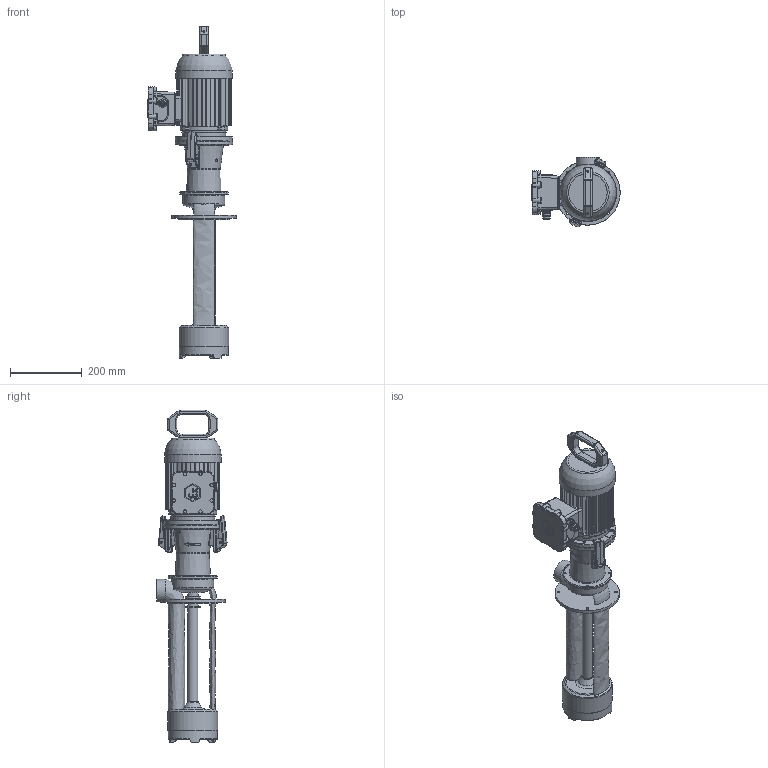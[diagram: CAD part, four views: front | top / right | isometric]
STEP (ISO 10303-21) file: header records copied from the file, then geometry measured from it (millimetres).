
FILE_DESCRIPTION(/* description */ ('Unknown'),/* implementation_level */ '2;1');
FILE_NAME(/* name */ 'EP EX 152-390',/* time_stamp */ '2025-06-03T08:35:46+03:00',/* author */ ('Unknown'),/* organization */ ('Unknown'),/* preprocessor_version */ 'ST-DEVELOPER v16.7',/* originating_system */ 'DEX',/* authorisation */ $);
FILE_SCHEMA (('AUTOMOTIVE_DESIGN {1 0 10303 214 3 1 1}'));
Length unit declared in the file: millimetre
Products named in the file (1): EP EX 152-390
Bounding box: 246.5 x 195.43 x 926.45 mm (x, y, z)
Volume: 8652216.3 mm3; surface area: 771046.7 mm2
Topology: 1 solids, 22 shells, 2297 faces, 6058 edges, 3779 vertices
Faces by surface type: cylinder 802, plane 730, bspline 404, torus 201, cone 113, sphere 47
Full cylindrical faces by diameter (mm): 3 x12, 3.242 x16, 4 x10, 4.134 x24, 4.9 x4, 5 x90, 5.3 x4, 5.5 x2, 5.7 x8, 6 x8, 7 x8, 8 x3, 9.5 x8, 12 x1, 13 x2, 13.962 x1, 16 x1, 18.348 x1, 18.376 x5, 19 x1, 20 x2, 21.8 x2, 28 x1, 29 x3, 30 x1, 42 x3, 44 x1, 48 x1, 62 x1, 73 x1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
Entity records: 109777 total; most frequent: CARTESIAN_POINT 43445, ORIENTED_EDGE 10866, DIRECTION 9982, EDGE_CURVE 5433, AXIS2_PLACEMENT_3D 4017, VERTEX_POINT 3586, FACE_BOUND 2697, EDGE_LOOP 2689
